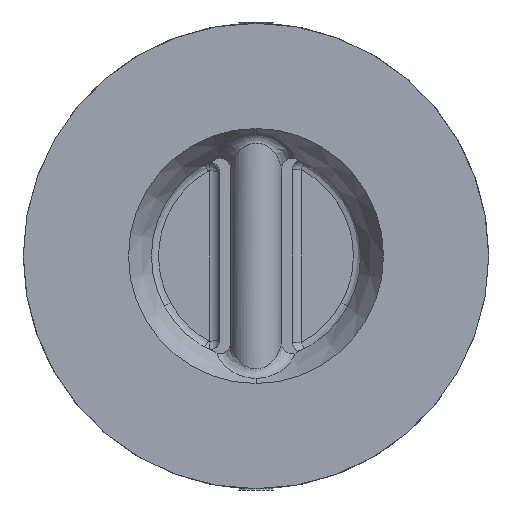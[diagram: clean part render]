
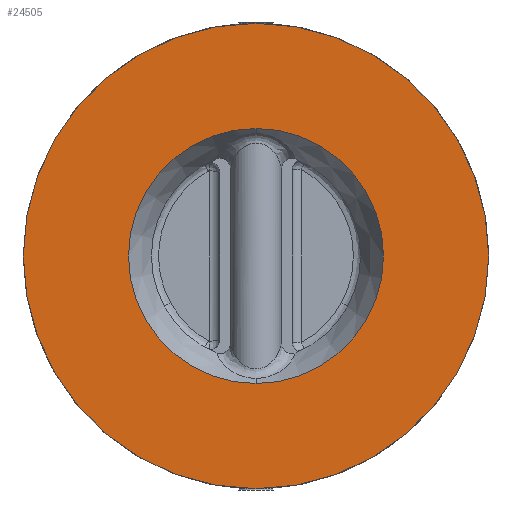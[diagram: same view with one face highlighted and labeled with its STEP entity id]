
A CAD part, front view. The second image highlights one B-rep face of the part: STEP entity #24505.
In plain terms, the highlighted planar face has unit normal (0, -1, 0).
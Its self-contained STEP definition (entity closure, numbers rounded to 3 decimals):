
#1410 = DIRECTION ( 'NONE',  ( 0., -1., 0. ) ) ;
#1435 = FACE_OUTER_BOUND ( 'NONE', #37371, .T. ) ;
#6866 = CIRCLE ( 'NONE', #32841, 64.5 ) ;
#7763 = DIRECTION ( 'NONE',  ( 0., -1., 0. ) ) ;
#10142 = EDGE_CURVE ( 'NONE', #56129, #27633, #19482, .T. ) ;
#14040 = ORIENTED_EDGE ( 'NONE', *, *, #10142, .T. ) ;
#16338 = CARTESIAN_POINT ( 'NONE',  ( 0., 0., -35.351 ) ) ;
#16573 = EDGE_CURVE ( 'NONE', #24477, #42354, #17256, .T. ) ;
#16911 = CARTESIAN_POINT ( 'NONE',  ( 0., 0., 0. ) ) ;
#17256 = CIRCLE ( 'NONE', #45940, 35.351 ) ;
#19383 = CARTESIAN_POINT ( 'NONE',  ( 0., 0., 35.351 ) ) ;
#19482 = CIRCLE ( 'NONE', #52143, 64.5 ) ;
#19574 = CARTESIAN_POINT ( 'NONE',  ( 0., 0., -64.5 ) ) ;
#21042 = ORIENTED_EDGE ( 'NONE', *, *, #49894, .T. ) ;
#21461 = DIRECTION ( 'NONE',  ( 0., 0., -1. ) ) ;
#22336 = DIRECTION ( 'NONE',  ( 0., 1., 0. ) ) ;
#22965 = DIRECTION ( 'NONE',  ( 0., 1., 0. ) ) ;
#23930 = CARTESIAN_POINT ( 'NONE',  ( 0., 0., 0. ) ) ;
#24147 = CIRCLE ( 'NONE', #28138, 35.351 ) ;
#24477 = VERTEX_POINT ( 'NONE', #19383 ) ;
#24505 = ADVANCED_FACE ( 'NONE', ( #37529, #1435 ), #28494, .T. ) ;
#27633 = VERTEX_POINT ( 'NONE', #19574 ) ;
#28138 = AXIS2_PLACEMENT_3D ( 'NONE', #49464, #22336, #54007 ) ;
#28494 = PLANE ( 'NONE',  #30865 ) ;
#30865 = AXIS2_PLACEMENT_3D ( 'NONE', #23930, #1410, #33031 ) ;
#32841 = AXIS2_PLACEMENT_3D ( 'NONE', #34868, #7763, #39417 ) ;
#33031 = DIRECTION ( 'NONE',  ( 0., 0., -1. ) ) ;
#34604 = EDGE_CURVE ( 'NONE', #27633, #56129, #6866, .T. ) ;
#34868 = CARTESIAN_POINT ( 'NONE',  ( 0., 0., 0. ) ) ;
#35465 = CARTESIAN_POINT ( 'NONE',  ( 0., 0., 64.5 ) ) ;
#37371 = EDGE_LOOP ( 'NONE', ( #44375, #14040 ) ) ;
#37529 = FACE_BOUND ( 'NONE', #49430, .T. ) ;
#39417 = DIRECTION ( 'NONE',  ( 0., 0., -1. ) ) ;
#42354 = VERTEX_POINT ( 'NONE', #16338 ) ;
#44375 = ORIENTED_EDGE ( 'NONE', *, *, #34604, .T. ) ;
#45940 = AXIS2_PLACEMENT_3D ( 'NONE', #50081, #22965, #54633 ) ;
#48576 = DIRECTION ( 'NONE',  ( 0., -1., 0. ) ) ;
#49430 = EDGE_LOOP ( 'NONE', ( #21042, #50958 ) ) ;
#49464 = CARTESIAN_POINT ( 'NONE',  ( 0., 0., 0. ) ) ;
#49894 = EDGE_CURVE ( 'NONE', #42354, #24477, #24147, .T. ) ;
#50081 = CARTESIAN_POINT ( 'NONE',  ( 0., 0., 0. ) ) ;
#50958 = ORIENTED_EDGE ( 'NONE', *, *, #16573, .T. ) ;
#52143 = AXIS2_PLACEMENT_3D ( 'NONE', #16911, #48576, #21461 ) ;
#54007 = DIRECTION ( 'NONE',  ( 0., 0., -1. ) ) ;
#54633 = DIRECTION ( 'NONE',  ( 0., 0., -1. ) ) ;
#56129 = VERTEX_POINT ( 'NONE', #35465 ) ;
